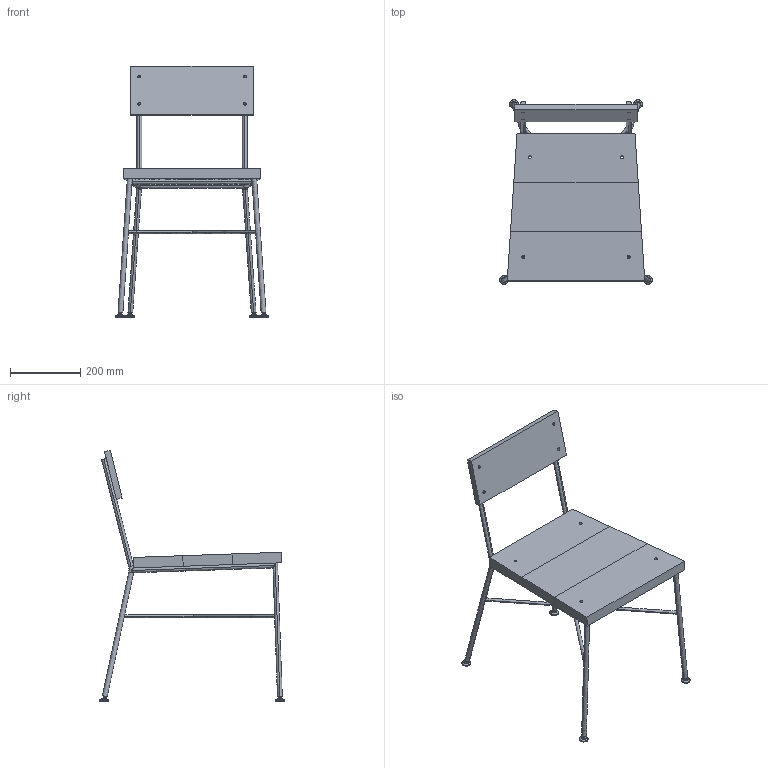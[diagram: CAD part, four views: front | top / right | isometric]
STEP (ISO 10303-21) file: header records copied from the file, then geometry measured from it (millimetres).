
FILE_DESCRIPTION(/* description */ (''),/* implementation_level */ '2;1');
FILE_NAME(/* name */ 'KINOSH~1',/* time_stamp */ '2023-04-18T20:43:00+09:00',/* author */ (''),/* organization */ (''),/* preprocessor_version */ 'ST-DEVELOPER v16.5',/* originating_system */ '',/* authorisation */ '');
FILE_SCHEMA (('AUTOMOTIVE_DESIGN'));
Length unit declared in the file: millimetre
Products named in the file (1): Document
Bounding box: 434.8 x 525.21 x 715 mm (x, y, z)
Volume: 6021379.1 mm3; surface area: 716815.4 mm2
Topology: 29 solids, 29 shells, 294 faces, 652 edges, 410 vertices
Faces by surface type: bspline 196, plane 98
Entity records: 11802 total; most frequent: CARTESIAN_POINT 7827, ORIENTED_EDGE 1304, EDGE_CURVE 652, VERTEX_POINT 410, EDGE_LOOP 320, ADVANCED_FACE 294, FACE_OUTER_BOUND 294, B_SPLINE_CURVE_WITH_KNOTS 250
